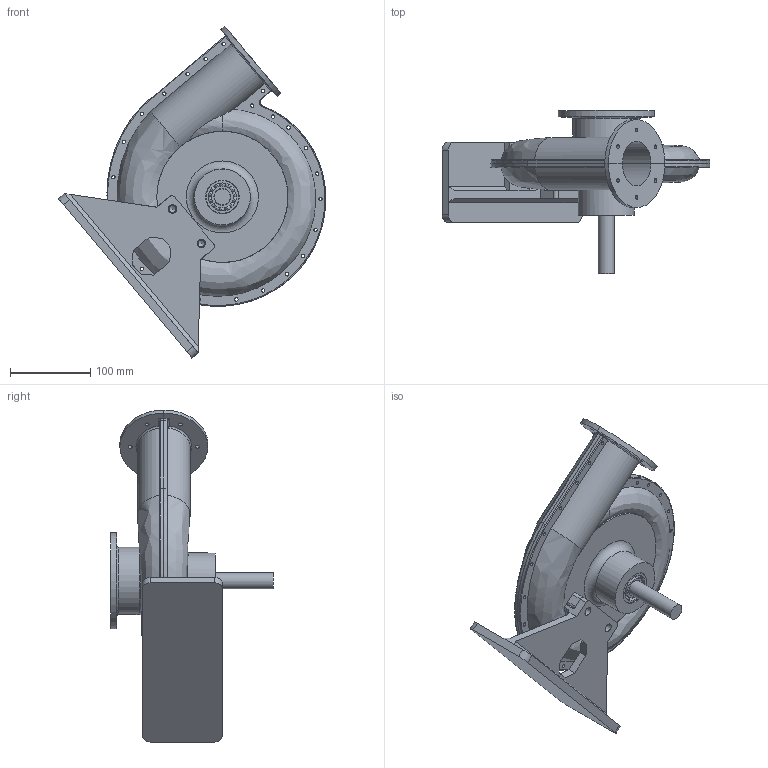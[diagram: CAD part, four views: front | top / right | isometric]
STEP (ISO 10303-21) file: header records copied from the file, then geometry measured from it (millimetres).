
FILE_DESCRIPTION(/* description */ (''),/* implementation_level */ '2;1');
FILE_NAME(/* name */ 'assieme pompa centrifuga con base.stp',/* time_stamp */ '2025-04-07T11:07:15+02:00',/* author */ ('R5800u'),/* organization */ (''),/* preprocessor_version */ 'ST-DEVELOPER v20',/* originating_system */ 'Autodesk Inventor 2025',/* authorisation */ '');
FILE_SCHEMA (('AUTOMOTIVE_DESIGN { 1 0 10303 214 3 1 1 }'));
Length unit declared in the file: millimetre
Products named in the file (10): assieme pompa centrifuga; pompa centrifuga; cassa; cassa2; albero_20mm; %3% BS 290 - SKF 6004; DIN 7603 - A20 x 24  (lt); oring 20mm; AS 1420 - 1973 - M8 x 35; sostegno
Assembly tree (11 placements, depth 2):
  assieme pompa centrifuga
    pompa centrifuga
    cassa
    cassa2
    albero_20mm
    %3% BS 290 - SKF 6004  x2
    DIN 7603 - A20 x 24  (lt)
    oring 20mm  x2
    AS 1420 - 1973 - M8 x 35
    sostegno
Bounding box: 334.33 x 203.61 x 414.93 mm (x, y, z)
Volume: 1821493.2 mm3; surface area: 600236.5 mm2
Topology: 11 solids, 11 shells, 392 faces, 1132 edges, 736 vertices
Faces by surface type: cylinder 172, plane 93, torus 57, bspline 42, cone 14, sphere 14
Full cylindrical faces by diameter (mm): 4.3 x48, 4.917 x6, 6.647 x7, 8 x1, 8.376 x2, 8.4 x1, 10.5 x2, 13 x1, 15 x1, 20 x6, 20.2 x1, 21 x3, 23.9 x1, 24 x2, 25 x2, 27.04 x4, 34.96 x4, 42 x3, 60 x1, 70 x2, 74 x1, 84 x1, 120 x1, 160 x1
Entity records: 27050 total; most frequent: CARTESIAN_POINT 17578, ORIENTED_EDGE 1932, DIRECTION 1792, EDGE_CURVE 966, AXIS2_PLACEMENT_3D 737, VERTEX_POINT 637, EDGE_LOOP 522, CIRCLE 407
